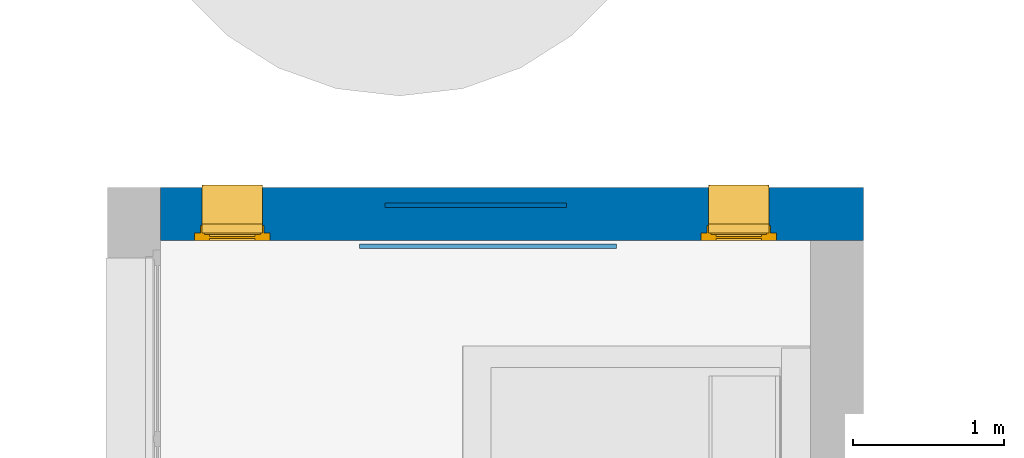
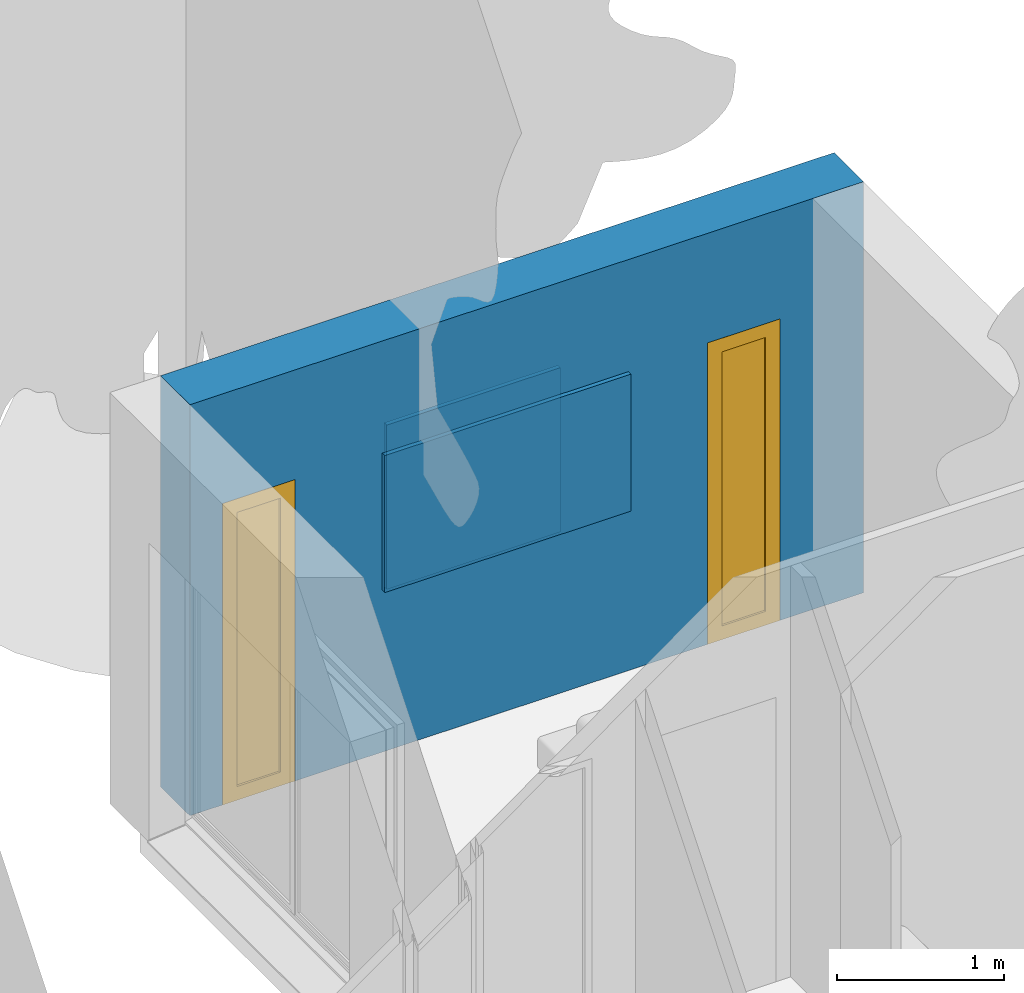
# One storey, part 15 of 40: 3 walls, 2 windows, 2 openings.
"""IFC2X3 building model written with IfcOpenShell, lengths in metres."""

from ifc_helpers import new_model, entity, si_unit, converted_unit, derived_unit, direction, frame, frame_2d, origin, place, context, subcontext, project, spatial, rectangle, extrude, faceted_brep, source, transform, mapped, material, material_list, layer, layer_set, layer_usage, type_object, type_shapes, element, fill, save


model = new_model("IFC2X3")

# Units and contexts
model_context = context("Model", 3, precision=1e-05, world=origin(), true_north=direction((6.12303176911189e-17, 1.0)))
body_context = subcontext(model_context, "Body", "Model", "MODEL_VIEW")
ifc_project = project(units=[si_unit("LENGTHUNIT", "METRE"), si_unit("AREAUNIT", "SQUARE_METRE"), si_unit("VOLUMEUNIT", "CUBIC_METRE"), converted_unit("PLANEANGLEUNIT", "DEGREE", entity("IfcRatioMeasure", 0.0174532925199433), si_unit("PLANEANGLEUNIT", "RADIAN"), dimensions=[0, 0, 0, 0, 0, 0, 0]), si_unit("MASSUNIT", "GRAM", prefix="KILO"), derived_unit("MASSDENSITYUNIT", [(si_unit("MASSUNIT", "GRAM", prefix="KILO"), 1), (si_unit("LENGTHUNIT", "METRE"), -3)]), si_unit("TIMEUNIT", "SECOND"), si_unit("FREQUENCYUNIT", "HERTZ"), si_unit("THERMODYNAMICTEMPERATUREUNIT", "DEGREE_CELSIUS"), derived_unit("THERMALTRANSMITTANCEUNIT", [(si_unit("MASSUNIT", "GRAM", prefix="KILO"), 1), (si_unit("THERMODYNAMICTEMPERATUREUNIT", "KELVIN"), -1), (si_unit("TIMEUNIT", "SECOND"), -3)]), derived_unit("VOLUMETRICFLOWRATEUNIT", [(si_unit("LENGTHUNIT", "METRE"), 3), (si_unit("TIMEUNIT", "SECOND"), -1)]), si_unit("ELECTRICCURRENTUNIT", "AMPERE"), si_unit("ELECTRICVOLTAGEUNIT", "VOLT"), si_unit("POWERUNIT", "WATT"), si_unit("FORCEUNIT", "NEWTON", prefix="KILO"), si_unit("ILLUMINANCEUNIT", "LUX"), si_unit("LUMINOUSFLUXUNIT", "LUMEN"), si_unit("LUMINOUSINTENSITYUNIT", "CANDELA"), derived_unit("USERDEFINED", [(si_unit("MASSUNIT", "GRAM", prefix="KILO"), -1), (si_unit("LENGTHUNIT", "METRE"), -2), (si_unit("TIMEUNIT", "SECOND"), 3), (si_unit("LUMINOUSFLUXUNIT", "LUMEN"), 1)]), derived_unit("LINEARVELOCITYUNIT", [(si_unit("LENGTHUNIT", "METRE"), 1), (si_unit("TIMEUNIT", "SECOND"), -1)]), si_unit("PRESSUREUNIT", "PASCAL"), derived_unit("USERDEFINED", [(si_unit("LENGTHUNIT", "METRE"), -2), (si_unit("MASSUNIT", "GRAM", prefix="KILO"), 1), (si_unit("TIMEUNIT", "SECOND"), -2)])], contexts=[model_context])

# Site, building, storey
site_placement = place(None, origin())
site = spatial("IfcSite", under=ifc_project, at=site_placement, Name="Surface", CompositionType="ELEMENT")
building_placement = place(site_placement, origin())
building = spatial("IfcBuilding", under=site, at=building_placement, CompositionType="ELEMENT")
storey_placement = place(building_placement, origin())
storey = spatial("IfcBuildingStorey", under=building, at=storey_placement, Name="RDC", CompositionType="ELEMENT", Elevation=-1.0941605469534e-13)

# Wall, openings, windows
ifc_material_1 = material(Name="Bardage bois")
ifc_layer_1 = layer(ifc_material_1, 0.01)
ifc_material_2 = material(Name="Maçonnerie - Isolant")
ifc_layer_2 = layer(ifc_material_2, 0.12)
ifc_material_3 = material(Name="Blocs béton manufacturés")
ifc_layer_3 = layer(ifc_material_3, 0.2)
ifc_material_4 = material(Name="Par défaut")
ifc_layer_4 = layer(ifc_material_4, 0.01)
ifc_material_5 = material(Name="Plâtre")
ifc_layer_5 = layer(ifc_material_5, 0.01)
ifc_layer_set_1 = layer_set([ifc_layer_1, ifc_layer_2, ifc_layer_3, ifc_layer_4, ifc_layer_5], Name="Mur de base:M8 Ext. Bois 2 + Isolant 12 +  BBMC 20 + vide 1 + ba13")
ifc_layer_usage_1 = layer_usage(ifc_layer_set_1, "AXIS2", "NEGATIVE", 0.175)
wall_type_1 = type_object("IfcWallType", Name="Mur de base:M8 Ext. Bois 2 + Isolant 12 +  BBMC 20 + vide 1 + ba13", PredefinedType="STANDARD", material=ifc_layer_set_1)
wall_1_placement = place(storey_placement, frame((12.1475111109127, 7.70201067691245, 0.0)))
wall_1 = element("IfcWallStandardCase", 1, at=wall_1_placement, inside=storey, type_object=wall_type_1, material=ifc_layer_usage_1, Name="Mur de base:M8 Ext. Bois 2 + Isolant 12 +  BBMC 20 + vide 1 + ba13", ObjectType="Mur de base:M8 Ext. Bois 2 + Isolant 12 +  BBMC 20 + vide 1 + ba13", context=body_context, shape_type="SweptSolid", body=[
    extrude(rectangle(XDim=4.65, YDim=0.350000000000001, at=frame_2d((2.325, -4.16333634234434e-17), x_axis=(-1.0, 0.0))), origin(), (0.0, 0.0, 1.0), 2.99999999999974),
])
opening_1_placement = place(wall_1_placement, frame((0.224999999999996, -0.500000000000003, -0.0775370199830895)))
opening_1 = element("IfcOpeningElement", 2, at=opening_1_placement, cuts=wall_1, Name="Mur de base:M8 Ext. Bois 2 + Isolant 12 +  BBMC 20 + vide 1 + ba13", ObjectType="Opening", context=body_context, shape_type="Brep", body=[
    faceted_brep([(0.0499999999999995, 0.404999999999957, 0.077537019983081), (0.0499999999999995, 0.425000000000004, 0.077537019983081), (0.0499999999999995, 0.425000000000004, 2.22753701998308), (0.0500000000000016, 1.0, 2.22753701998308), (0.0500000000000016, 1.0, 0.0), (0.0499999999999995, 0.404999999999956, 0.062537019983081), (0.449999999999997, 0.0, 0.077537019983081), (0.45, 0.325, 0.077537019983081), (0.45, 0.325, 2.22753701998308), (0.449999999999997, 0.0, 2.22753701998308), (0.0499999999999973, 0.0, 0.077537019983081), (0.0499999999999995, 0.325000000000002, 0.077537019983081), (0.0, 0.325000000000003, 0.077537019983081), (0.0, 0.375000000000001, 0.077537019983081), (0.0399999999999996, 0.375000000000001, 0.077537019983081), (0.0399999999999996, 0.425000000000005, 0.077537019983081), (0.45, 0.404999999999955, 0.077537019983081), (0.45, 0.425000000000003, 0.0775370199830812), (0.459999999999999, 0.425000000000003, 0.077537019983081), (0.459999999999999, 0.375, 0.077537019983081), (0.499999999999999, 0.375, 0.077537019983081), (0.499999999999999, 0.325000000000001, 0.077537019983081), (0.0499999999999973, 0.0, 2.22753701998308), (0.45, 0.425000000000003, 2.22753701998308), (0.450000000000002, 1.0, 2.22753701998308), (0.450000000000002, 1.0, 0.0), (0.45, 0.404999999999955, 0.062537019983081), (0.0, 0.325000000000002, 2.27753701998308), (0.0, 0.375000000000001, 2.27753701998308), (0.499999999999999, 0.375, 2.27753701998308), (0.459999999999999, 0.374999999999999, 2.23753701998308), (0.0399999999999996, 0.375000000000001, 2.23753701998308), (0.0399999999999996, 0.425000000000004, 2.23753701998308), (0.459999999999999, 0.425000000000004, 2.23753701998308), (0.0499999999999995, 0.325000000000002, 2.22753701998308), (0.499999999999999, 0.325, 2.27753701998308)], [[[0, 1, 2, 3, 4, 5]], [[6, 7, 8, 9]], [[10, 11, 12, 13, 14, 15, 1, 0, 16, 17, 18, 19, 20, 21, 7, 6]], [[10, 6, 9, 22]], [[3, 2, 23, 24]], [[3, 24, 25, 4]], [[4, 25, 26, 5]], [[5, 26, 16, 0]], [[12, 27, 28, 13]], [[13, 28, 29, 20, 19, 30, 31, 14]], [[14, 31, 32, 15]], [[15, 32, 33, 18, 17, 23, 2, 1]], [[11, 34, 8, 7, 21, 35, 27, 12]], [[27, 35, 29, 28]], [[30, 33, 32, 31]], [[29, 35, 21, 20]], [[19, 18, 33, 30]], [[9, 8, 34, 22]], [[24, 23, 17, 16, 26, 25]], [[22, 34, 11, 10]]]),
])
opening_2_placement = place(wall_1_placement, frame((3.575, -0.500000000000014, -0.0775370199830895)))
opening_2 = element("IfcOpeningElement", 3, at=opening_2_placement, cuts=wall_1, Name="Mur de base:M8 Ext. Bois 2 + Isolant 12 +  BBMC 20 + vide 1 + ba13", ObjectType="Opening", context=body_context, shape_type="Brep", body=[
    faceted_brep([(0.0499999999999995, 0.404999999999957, 0.077537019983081), (0.0499999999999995, 0.425000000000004, 0.077537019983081), (0.0499999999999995, 0.425000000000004, 2.22753701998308), (0.0500000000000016, 1.0, 2.22753701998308), (0.0500000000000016, 1.0, 0.0), (0.0499999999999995, 0.404999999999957, 0.062537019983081), (0.449999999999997, 0.0, 0.077537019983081), (0.45, 0.325000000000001, 0.077537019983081), (0.45, 0.325000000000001, 2.22753701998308), (0.449999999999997, 0.0, 2.22753701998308), (0.0499999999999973, 0.0, 0.077537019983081), (0.0499999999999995, 0.325000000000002, 0.077537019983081), (0.0, 0.325000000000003, 0.077537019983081), (0.0, 0.375000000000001, 0.077537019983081), (0.0399999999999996, 0.375000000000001, 0.077537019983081), (0.0399999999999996, 0.425000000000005, 0.077537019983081), (0.45, 0.404999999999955, 0.077537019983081), (0.45, 0.425000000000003, 0.0775370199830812), (0.459999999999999, 0.425000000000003, 0.077537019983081), (0.459999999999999, 0.375, 0.077537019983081), (0.499999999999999, 0.375, 0.077537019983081), (0.499999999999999, 0.325000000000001, 0.077537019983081), (0.0499999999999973, 0.0, 2.22753701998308), (0.45, 0.425000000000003, 2.22753701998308), (0.450000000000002, 1.0, 2.22753701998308), (0.450000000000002, 1.0, 0.0), (0.45, 0.404999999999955, 0.062537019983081), (0.0, 0.325000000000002, 2.27753701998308), (0.0, 0.375000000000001, 2.27753701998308), (0.499999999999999, 0.375, 2.27753701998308), (0.459999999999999, 0.374999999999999, 2.23753701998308), (0.0399999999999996, 0.375000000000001, 2.23753701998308), (0.0399999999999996, 0.425000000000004, 2.23753701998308), (0.459999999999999, 0.425000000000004, 2.23753701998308), (0.0499999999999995, 0.325000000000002, 2.22753701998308), (0.499999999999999, 0.325, 2.27753701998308)], [[[0, 1, 2, 3, 4, 5]], [[6, 7, 8, 9]], [[10, 11, 12, 13, 14, 15, 1, 0, 16, 17, 18, 19, 20, 21, 7, 6]], [[10, 6, 9, 22]], [[3, 2, 23, 24]], [[3, 24, 25, 4]], [[4, 25, 26, 5]], [[5, 26, 16, 0]], [[12, 27, 28, 13]], [[13, 28, 29, 20, 19, 30, 31, 14]], [[14, 31, 32, 15]], [[15, 32, 33, 18, 17, 23, 2, 1]], [[11, 34, 8, 7, 21, 35, 27, 12]], [[27, 35, 29, 28]], [[30, 33, 32, 31]], [[29, 35, 21, 20]], [[19, 18, 33, 30]], [[9, 8, 34, 22]], [[24, 23, 17, 16, 26, 25]], [[22, 34, 11, 10]]]),
])
ifc_material_6 = material(Name="Fenêtre - Appui")
ifc_material_7 = material(Name="Fenêtre - Vitrage")
ifc_material_8 = material(Name="Fenêtre - Cadre")
ifc_material_list_1 = material_list([ifc_material_6, ifc_material_7, ifc_material_8])
ifc_material_list_2 = material_list([ifc_material_6, ifc_material_7, ifc_material_8])
window_style = type_object("IfcWindowStyle", Name="0.40m x2.15m", ConstructionType="NOTDEFINED", OperationType="SINGLE_PANEL", ParameterTakesPrecedence=False, Sizeable=False, material=ifc_material_list_2)
shared_shape = source(origin(), body_context, "Body", "Brep", [
    faceted_brep([(0.45, -0.309999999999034, 0.0378375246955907), (0.45, -0.589999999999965, 0.0672667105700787), (0.45, -0.589999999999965, 0.0775370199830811), (0.45, -0.594999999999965, 0.0775370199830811), (0.45, -0.594999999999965, 0.0625370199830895), (0.45, -0.314999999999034, 0.0331078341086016), (0.45, -0.314999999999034, 0.0228073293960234), (0.45, -0.309999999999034, 0.022281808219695), (0.0499999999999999, -0.309999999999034, 0.0378375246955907), (0.0499999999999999, -0.309999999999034, 0.022281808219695), (0.0499999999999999, -0.314999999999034, 0.0228073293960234), (0.0499999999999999, -0.314999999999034, 0.0331078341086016), (0.0499999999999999, -0.594999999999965, 0.0625370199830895), (0.0499999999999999, -0.594999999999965, 0.0775370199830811), (0.0499999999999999, -0.589999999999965, 0.0775370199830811), (0.0499999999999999, -0.589999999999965, 0.0672667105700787)], [[[0, 1, 2, 3, 4, 5, 6, 7]], [[8, 9, 10, 11, 12, 13, 14, 15]], [[1, 0, 8, 15]], [[2, 1, 15, 14]], [[3, 2, 14, 13]], [[4, 3, 13, 12]], [[5, 4, 12, 11]], [[6, 5, 11, 10]], [[7, 6, 10, 9]], [[0, 7, 9, 8]]]),
    faceted_brep([(0.0500000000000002, -0.309999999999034, 0.0392634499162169), (0.0500000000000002, -0.309999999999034, 0.0378375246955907), (0.0499999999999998, -0.589999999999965, 0.0672667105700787), (0.0499999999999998, -0.589999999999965, 0.0722942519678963), (0.0500000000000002, -0.313581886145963, 0.04324153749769), (0.0500000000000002, -0.311027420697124, 0.0419399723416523), (0.0549999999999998, -0.589999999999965, 0.0722942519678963), (0.0549999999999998, -0.589999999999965, 0.0672667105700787), (0.0550000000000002, -0.309999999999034, 0.0378375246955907), (0.0550000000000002, -0.309999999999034, 0.0392634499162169), (0.0550000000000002, -0.311027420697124, 0.0419399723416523), (0.0550000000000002, -0.313581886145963, 0.04324153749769)], [[[0, 1, 2, 3, 4, 5]], [[6, 7, 8, 9, 10, 11]], [[2, 1, 8, 7]], [[3, 2, 7, 6]], [[4, 3, 6, 11]], [[4, 11, 10, 5]], [[10, 9, 0, 5]], [[1, 0, 9, 8]]]),
    faceted_brep([(0.445, -0.309999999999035, 0.0392634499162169), (0.445, -0.309999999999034, 0.0378375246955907), (0.445, -0.589999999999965, 0.0672667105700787), (0.445, -0.589999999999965, 0.0722942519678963), (0.445, -0.313581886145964, 0.04324153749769), (0.445, -0.311027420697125, 0.0419399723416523), (0.45, -0.589999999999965, 0.0722942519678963), (0.45, -0.589999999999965, 0.0672667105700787), (0.45, -0.309999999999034, 0.0378375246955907), (0.45, -0.309999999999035, 0.0392634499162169), (0.45, -0.311027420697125, 0.0419399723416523), (0.45, -0.313581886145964, 0.04324153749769)], [[[0, 1, 2, 3, 4, 5]], [[6, 7, 8, 9, 10, 11]], [[2, 1, 8, 7]], [[3, 2, 7, 6]], [[4, 3, 6, 11]], [[4, 11, 10, 5]], [[10, 9, 0, 5]], [[1, 0, 9, 8]]]),
    faceted_brep([(0.0999999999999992, -0.649000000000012, 0.17753701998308), (0.0999999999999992, -0.649000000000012, 2.17753701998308), (0.4, -0.649000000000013, 2.17753701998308), (0.4, -0.649000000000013, 0.17753701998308), (0.0999999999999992, -0.661000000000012, 0.17753701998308), (0.0999999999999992, -0.661000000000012, 2.17753701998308), (0.4, -0.661000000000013, 2.17753701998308), (0.4, -0.661000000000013, 0.17753701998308)], [[[0, 1, 2, 3]], [[1, 0, 4, 5]], [[3, 2, 6, 7]], [[0, 3, 7, 4]], [[4, 7, 6, 5]], [[2, 1, 5, 6]]]),
    faceted_brep([(0.0999999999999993, -0.635000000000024, 2.17753701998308), (0.0999999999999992, -0.675000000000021, 2.17753701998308), (0.0999999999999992, -0.675000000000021, 0.177537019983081), (0.0999999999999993, -0.635000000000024, 0.17753701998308), (0.4, -0.675000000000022, 0.17753701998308), (0.4, -0.635000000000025, 0.17753701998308), (0.399999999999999, -0.675000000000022, 2.17753701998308), (0.449999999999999, -0.675000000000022, 0.127537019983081), (0.449999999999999, -0.675000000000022, 2.22753701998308), (0.0499999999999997, -0.675000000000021, 2.22753701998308), (0.0499999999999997, -0.675000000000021, 0.127537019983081), (0.4, -0.635000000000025, 2.17753701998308), (0.049999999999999, -0.635000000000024, 0.12753701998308), (0.0499999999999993, -0.635000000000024, 2.22753701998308), (0.45, -0.635000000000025, 2.22753701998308), (0.45, -0.635000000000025, 0.127537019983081)], [[[0, 1, 2, 3]], [[3, 2, 4, 5]], [[2, 1, 6, 4], [7, 8, 9, 10]], [[5, 4, 6, 11]], [[5, 11, 0, 3], [12, 13, 14, 15]], [[9, 13, 12, 10]], [[10, 12, 15, 7]], [[7, 15, 14, 8]], [[11, 6, 1, 0]], [[8, 14, 13, 9]]], outer=[[True], [True], [False, True], [True], [False, True], [True], [True], [True], [True], [True]]),
    faceted_brep([(0.0, -0.675, 0.0775370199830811), (0.0, -0.625000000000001, 0.0775370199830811), (0.0499999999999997, -0.625000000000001, 0.0775370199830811), (0.0499999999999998, -0.575000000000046, 0.0775370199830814), (0.45, -0.575000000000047, 0.0775370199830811), (0.45, -0.625000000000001, 0.0775370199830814), (0.499999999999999, -0.625000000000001, 0.0775370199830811), (0.499999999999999, -0.675, 0.0775370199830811), (0.0, -0.675, 2.27753701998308), (0.0, -0.625000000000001, 2.27753701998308), (0.499999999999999, -0.625000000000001, 2.27753701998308), (0.45, -0.625000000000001, 0.116913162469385), (0.0499999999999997, -0.625000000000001, 0.11691316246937), (0.0649999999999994, -0.625000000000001, 2.21253701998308), (0.0649999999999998, -0.625000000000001, 0.142537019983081), (0.435, -0.625000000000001, 0.142537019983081), (0.435, -0.625000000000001, 2.21253701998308), (0.0499999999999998, -0.565000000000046, 0.100836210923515), (0.0499999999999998, -0.565000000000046, 0.0725370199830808), (0.0499999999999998, -0.575000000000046, 0.0725370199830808), (0.45, -0.575000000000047, 0.0725370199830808), (0.45, -0.565000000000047, 0.0725370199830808), (0.45, -0.565000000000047, 0.100836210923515), (0.499999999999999, -0.675, 2.27753701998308), (0.45, -0.675, 2.22753701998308), (0.45, -0.675, 0.127537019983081), (0.0499999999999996, -0.675, 0.127537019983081), (0.0499999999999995, -0.675, 2.22753701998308), (0.0649999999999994, -0.635000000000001, 2.21253701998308), (0.0649999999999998, -0.635000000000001, 0.142537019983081), (0.435, -0.635000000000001, 0.142537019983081), (0.435, -0.635000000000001, 2.21253701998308), (0.45, -0.635000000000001, 2.22753701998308), (0.0499999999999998, -0.635000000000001, 2.22753701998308), (0.0499999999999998, -0.635000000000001, 0.127537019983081), (0.45, -0.635000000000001, 0.127537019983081)], [[[0, 1, 2, 3, 4, 5, 6, 7]], [[1, 0, 8, 9]], [[1, 9, 10, 6, 5, 11, 12, 2], [13, 14, 15, 16]], [[12, 17, 18, 19, 3, 2]], [[3, 19, 20, 4]], [[4, 20, 21, 22, 11, 5]], [[6, 10, 23, 7]], [[0, 7, 23, 8], [24, 25, 26, 27]], [[13, 28, 29, 14]], [[29, 30, 15, 14]], [[31, 16, 15, 30]], [[17, 12, 11, 22]], [[28, 31, 30, 29], [32, 33, 34, 35]], [[34, 33, 27, 26]], [[26, 25, 35, 34]], [[24, 32, 35, 25]], [[18, 17, 22, 21]], [[19, 18, 21, 20]], [[13, 16, 31, 28]], [[10, 9, 8, 23]], [[33, 32, 24, 27]]], outer=[[True], [True], [True, False], [True], [True], [True], [True], [True, False], [True], [True], [True], [True], [False, True], [True], [True], [True], [True], [True], [True], [True], [True]]),
    faceted_brep([(0.0499999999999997, -0.574999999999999, 0.0775370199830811), (0.0499999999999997, -0.625000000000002, 0.0775370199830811), (0.0399999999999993, -0.625000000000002, 0.0775370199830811), (0.0399999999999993, -0.574999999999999, 0.0775370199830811), (0.0499999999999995, -0.574999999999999, 2.22753701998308), (0.0499999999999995, -0.625000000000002, 2.22753701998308), (0.45, -0.625000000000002, 2.22753701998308), (0.45, -0.625000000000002, 0.0775370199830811), (0.46, -0.625000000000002, 0.0775370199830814), (0.46, -0.625000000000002, 2.23753701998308), (0.0399999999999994, -0.625000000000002, 2.23753701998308), (0.0399999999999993, -0.574999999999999, 2.23753701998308), (0.46, -0.574999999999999, 2.23753701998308), (0.46, -0.574999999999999, 0.0775370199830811), (0.45, -0.574999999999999, 0.0775370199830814), (0.45, -0.574999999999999, 2.22753701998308)], [[[0, 1, 2, 3]], [[1, 0, 4, 5]], [[2, 1, 5, 6, 7, 8, 9, 10]], [[3, 2, 10, 11]], [[0, 3, 11, 12, 13, 14, 15, 4]], [[6, 15, 14, 7]], [[14, 13, 8, 7]], [[12, 9, 8, 13]], [[5, 4, 15, 6]], [[11, 10, 9, 12]]]),
])
type_shapes(window_style, [shared_shape])
window_1_placement = place(opening_1_placement, frame((0.0, 1.0, 0.0)))
window_1 = element("IfcWindow", 4, at=window_1_placement, inside=storey, type_object=window_style, material=ifc_material_list_1, Name="1 Vantail - Droit:0.40m x2.15m", ObjectType="0.40m x2.15m", OverallHeight=2.28, OverallWidth=0.5, context=body_context, shape_type="MappedRepresentation", body=[
    mapped(shared_shape, transform((0.0, 0.0, 0.0), scale=1.0)),
])
fill(opening_1, window_1)
ifc_material_list_3 = material_list([ifc_material_6, ifc_material_7, ifc_material_8])
window_2_placement = place(opening_2_placement, frame((0.0, 1.0, 0.0)))
window_2 = element("IfcWindow", 5, at=window_2_placement, inside=storey, type_object=window_style, material=ifc_material_list_3, Name="1 Vantail - Droit:0.40m x2.15m", ObjectType="0.40m x2.15m", OverallHeight=2.28, OverallWidth=0.5, context=body_context, shape_type="MappedRepresentation", body=[
    mapped(shared_shape, transform((0.0, 0.0, 0.0), scale=1.0)),
])
fill(opening_2, window_2)

# Walls
ifc_material_9 = material(Name="Tableau Mondrian")
ifc_layer_6 = layer(ifc_material_9, 0.03)
ifc_layer_set_2 = layer_set([ifc_layer_6], Name="Mur de base:Tableau Mondrian")
ifc_layer_usage_2 = layer_usage(ifc_layer_set_2, "AXIS2", "POSITIVE", -0.015)
wall_type_2 = type_object("IfcWallType", Name="Mur de base:Tableau Mondrian", PredefinedType="STANDARD", material=ifc_layer_set_2)
wall_2_placement = place(storey_placement, frame((13.6320338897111, 7.75938495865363, 1.0)))
element("IfcWallStandardCase", 6, at=wall_2_placement, inside=storey, type_object=wall_type_2, material=ifc_layer_usage_2, Name="Mur de base:Tableau Mondrian", ObjectType="Mur de base:Tableau Mondrian", context=body_context, shape_type="SweptSolid", body=[
    extrude(rectangle(XDim=1.2, YDim=0.0299999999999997, at=frame_2d((0.599999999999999, 5.03069808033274e-17), x_axis=(-1.0, 0.0))), origin(), (0.0, 0.0, 1.0), 1.2),
])
ifc_material_10 = material(Name="Tableau chambre 1")
ifc_layer_7 = layer(ifc_material_10, 0.03)
ifc_layer_set_3 = layer_set([ifc_layer_7], Name="Mur de base:Tableau chambre 1")
ifc_layer_usage_3 = layer_usage(ifc_layer_set_3, "AXIS2", "NEGATIVE", 0.015)
wall_type_3 = type_object("IfcWallType", Name="Mur de base:Tableau chambre 1", PredefinedType="STANDARD", material=ifc_layer_set_3)
wall_3_placement = place(storey_placement, frame((13.4625111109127, 7.48938495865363, 1.2)))
element("IfcWallStandardCase", 7, at=wall_3_placement, inside=storey, type_object=wall_type_3, material=ifc_layer_usage_3, Name="Mur de base:Tableau chambre 1", ObjectType="Mur de base:Tableau chambre 1", context=body_context, shape_type="SweptSolid", body=[
    extrude(rectangle(XDim=1.7, YDim=0.0299999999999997, at=frame_2d((0.85, 0.0), x_axis=(-1.0, 0.0))), origin(), (0.0, 0.0, 1.0), 1.0),
])

save(model, "model.ifc")
